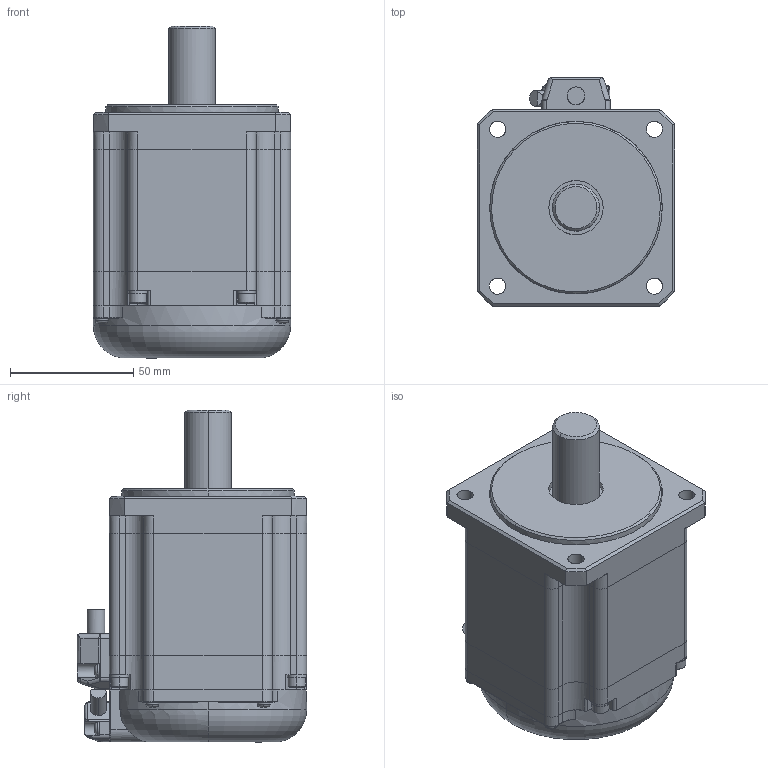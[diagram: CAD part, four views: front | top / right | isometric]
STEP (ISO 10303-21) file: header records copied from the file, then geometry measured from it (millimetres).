
FILE_DESCRIPTION (( 'STEP AP203' ), '1' );
FILE_NAME ('TS4613.STEP', '2010-08-06T14:23:00', ( 'render' ), ( '' ), 'SwSTEP 2.0', 'SolidWorks 2009', '' );
FILE_SCHEMA (( 'CONFIG_CONTROL_DESIGN' ));
Length unit declared in the file: millimetre
Products named in the file (1): TS4613
Bounding box: 80 x 93 x 134.7 mm (x, y, z)
Volume: 579389.8 mm3; surface area: 80018.5 mm2
Topology: 4 solids, 4 shells, 632 faces, 1586 edges, 974 vertices
Faces by surface type: plane 307, cylinder 217, cone 32, torus 29, sphere 28, bspline 19
Entity records: 22205 total; most frequent: CARTESIAN_POINT 8305, ORIENTED_EDGE 3154, DIRECTION 2415, EDGE_CURVE 1577, VERTEX_POINT 974, AXIS2_PLACEMENT_3D 858, LINE 699, VECTOR 699
